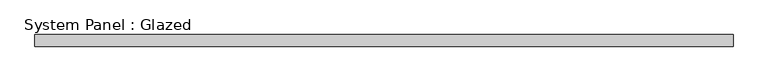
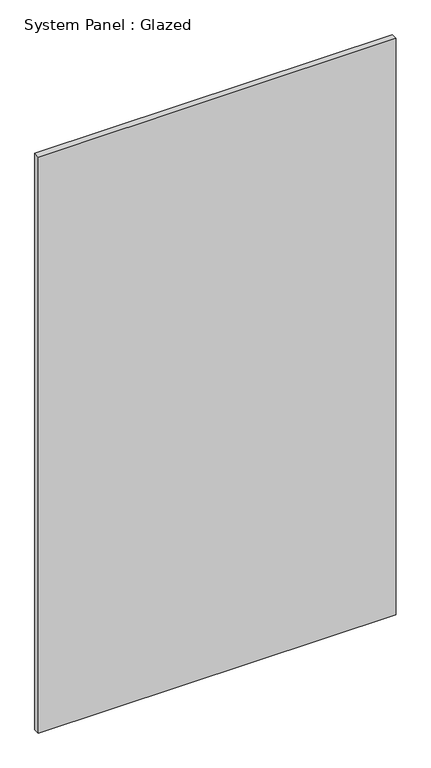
"""IFC4 building model written with IfcOpenShell, lengths in millimetres: plate geometry, System Panel : Glazed."""

from ifc_helpers import new_model, si_unit, origin, origin_with_axes, place, context, project, spatial, polyline, outline, extrude, source, transform, mapped, element, save


def system_panel_glazed_93778ba0(model_context):
    return source(origin(), model_context, "Body", "SweptSolid", [
        extrude(outline(polyline([(733.425, 19.05), (-733.425, 19.05), (-733.425, 44.45), (733.425, 44.45), (733.425, 19.05)])), origin_with_axes(), (0.0, 0.0, 1.0), 2495.55),
    ])


if __name__ == "__main__":
    model = new_model("IFC4")
    model_context = context("Model", 3, world=origin())
    ifc_project = project(units=[si_unit("LENGTHUNIT", "METRE", prefix="MILLI")], contexts=[model_context])
    site = spatial("IfcSite", under=ifc_project)
    building = spatial("IfcBuilding", under=site)
    placement = place(None, origin())
    system_panel_glazed_shape = system_panel_glazed_93778ba0(model_context)
    element("IfcPlate", 1, ObjectType="System Panel : Glazed", at=placement, inside=building, context=model_context, shape_type="MappedRepresentation", body=[
        mapped(system_panel_glazed_shape, transform((0.0, 0.0, 0.0), x_axis=(1.0, 0.0, 0.0), y_axis=(0.0, 1.0, 0.0), z_axis=(0.0, 0.0, 1.0))),
    ])
    save(model, "model.ifc")
